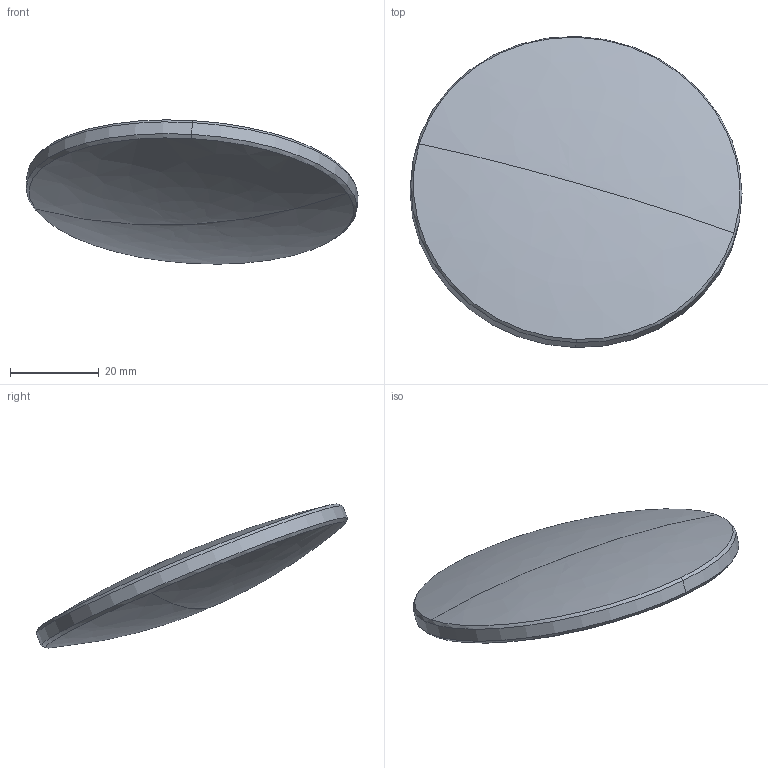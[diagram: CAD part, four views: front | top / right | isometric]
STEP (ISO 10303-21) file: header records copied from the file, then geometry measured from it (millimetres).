
FILE_DESCRIPTION (( 'STEP AP203' ), '1' );
FILE_NAME ('Lentille 2_2_Défaut_sldprt.STEP', '2018-04-06T14:28:42', ( '' ), ( '' ), 'SwSTEP 2.0', 'SolidWorks 2013', '' );
FILE_SCHEMA (( 'CONFIG_CONTROL_DESIGN' ));
Length unit declared in the file: millimetre
Products named in the file (1): Lentille 2_2_Défaut_sldprt
Bounding box: 75.03 x 70.36 x 32.6 mm (x, y, z)
Volume: 38008.6 mm3; surface area: 9806.7 mm2
Topology: 1 solids, 1 shells, 10 faces, 26 edges, 14 vertices
Faces by surface type: bspline 4, cone 4, cylinder 2
Entity records: 407 total; most frequent: CARTESIAN_POINT 107, DIRECTION 52, ORIENTED_EDGE 44, AXIS2_PLACEMENT_3D 23, EDGE_CURVE 22, CIRCLE 16, VERTEX_POINT 14, EDGE_LOOP 10
